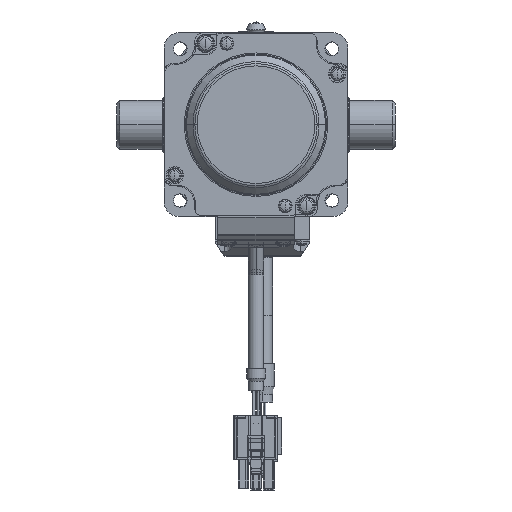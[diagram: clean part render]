
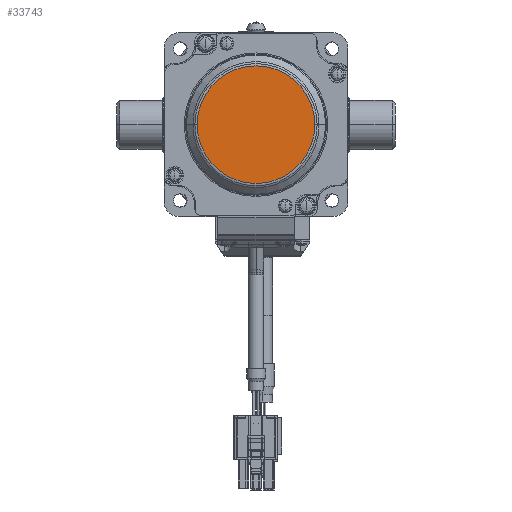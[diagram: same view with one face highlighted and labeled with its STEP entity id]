
A CAD part, front view. The second image highlights one B-rep face of the part: STEP entity #33743.
In plain terms, the highlighted planar face has unit normal (0, -1, 0) as drawn and (-1, 0, 0) by its records, which use the part's own axes.
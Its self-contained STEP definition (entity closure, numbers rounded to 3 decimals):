
#26485=CARTESIAN_POINT('',(-67.5,0.,0.));
#26486=DIRECTION('',(-1.,0.,0.));
#26487=DIRECTION('',(0.,0.,-1.));
#26488=AXIS2_PLACEMENT_3D('',#26485,#26486,#26487);
#26490=CARTESIAN_POINT('',(-67.5,0.,0.));
#26491=DIRECTION('',(-1.,0.,0.));
#26492=DIRECTION('',(0.,0.,1.));
#26493=AXIS2_PLACEMENT_3D('',#26490,#26491,#26492);
#27923=CARTESIAN_POINT('',(-67.5,0.,-19.191));
#27925=VERTEX_POINT('',#27923);
#27929=CARTESIAN_POINT('',(-67.5,0.,19.191));
#27930=VERTEX_POINT('',#27929);
#33733=CARTESIAN_POINT('',(-67.5,-17.,27.));
#33734=DIRECTION('',(1.,0.,0.));
#33735=DIRECTION('',(0.,0.,-1.));
#33736=AXIS2_PLACEMENT_3D('',#33733,#33734,#33735);
#33737=PLANE('',#33736);
#33738=ORIENTED_EDGE('',*,*,#33723,.F.);
#33740=ORIENTED_EDGE('',*,*,#33739,.F.);
#33741=EDGE_LOOP('',(#33738,#33740));
#33742=FACE_OUTER_BOUND('',#33741,.F.);
#33743=ADVANCED_FACE('',(#33742),#33737,.F.);
#26489=CIRCLE('',#26488,19.191);
#26494=CIRCLE('',#26493,19.191);
#33723=EDGE_CURVE('',#27925,#27930,#26489,.T.);
#33739=EDGE_CURVE('',#27930,#27925,#26494,.T.);
